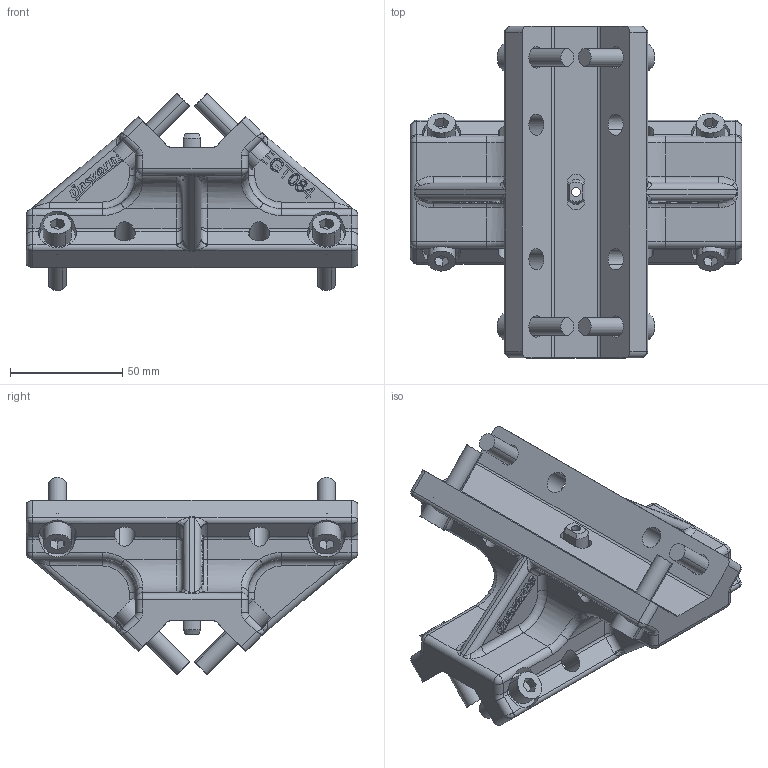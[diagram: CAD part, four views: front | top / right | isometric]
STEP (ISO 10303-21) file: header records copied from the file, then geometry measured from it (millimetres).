
FILE_DESCRIPTION(('CATIA V5 STEP Exchange'),'2;1');
FILE_NAME('C:\Users\User\Desktop\stp\EGT084.stp','2017-07-21T01:29:40+00:00',('none'),('none'),'CATIA Version 5 Release 21 GA (IN-10)','CATIA V5 STEP AP203','none');
FILE_SCHEMA(('CONFIG_CONTROL_DESIGN'));
Products named in the file (1): EGT084
Bounding box: 148 x 148 x 87.87 mm (x, y, z)
Volume: 356336.7 mm3; surface area: 76089.7 mm2
Topology: 28 solids, 28 shells, 1500 faces, 4126 edges, 2684 vertices
Faces by surface type: plane 1072, cylinder 232, extrusion 100, bspline 60, torus 24, sphere 8, cone 4
Entity records: 53967 total; most frequent: CARTESIAN_POINT 17468, ORIENTED_EDGE 8220, DIRECTION 6190, EDGE_CURVE 4110, VECTOR 3342, LINE 3242, VERTEX_POINT 2684, AXIS2_PLACEMENT_3D 1587
